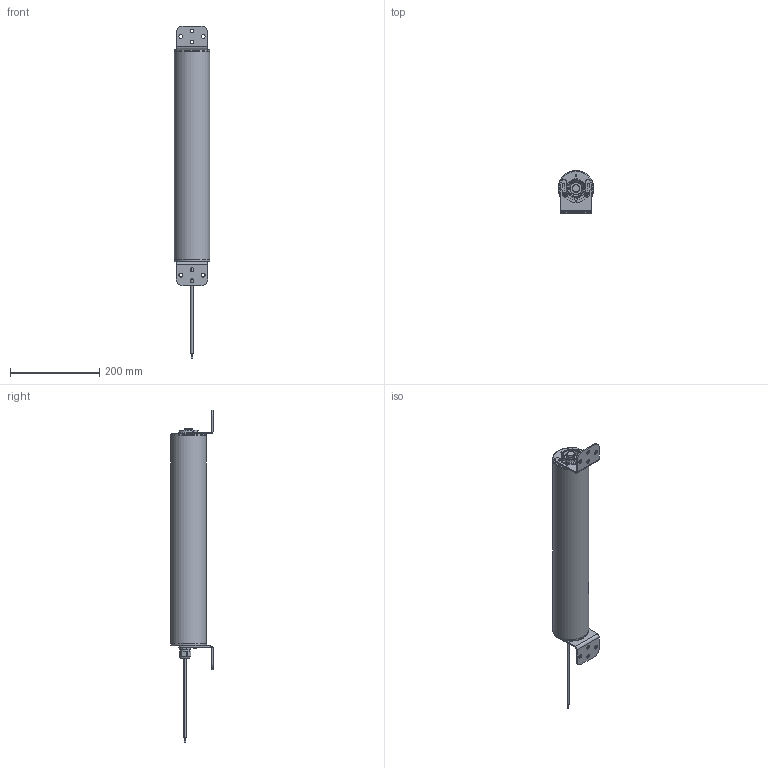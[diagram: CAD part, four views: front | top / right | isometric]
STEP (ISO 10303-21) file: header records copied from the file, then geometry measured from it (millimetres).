
FILE_DESCRIPTION (( 'STEP AP203' ), '1' );
FILE_NAME ('LB9x301.STEP', '2024-08-28T10:10:46', ( '' ), ( '' ), 'SwSTEP 2.0', 'SolidWorks 2021', '' );
FILE_SCHEMA (( 'CONFIG_CONTROL_DESIGN' ));
Length unit declared in the file: millimetre
Products named in the file (7): IP69K adjust model_375; Cable M12 femelle_1; 006266-C; IP69K enclosure adjust_375; 000039_M5x10_1; LB9x301; 000715_1
Assembly tree (10 placements, depth 2):
  LB9x301
    IP69K adjust model_375
    IP69K enclosure adjust_375
    000039_M5x10_1  x4
    000715_1
    Cable M12 femelle_1
    006266-C  x2
Bounding box: 80 x 95 x 743.8 mm (x, y, z)
Volume: 1393638.9 mm3; surface area: 402659.8 mm2
Topology: 12 solids, 12 shells, 1217 faces, 3218 edges, 2092 vertices
Faces by surface type: plane 665, cylinder 366, bspline 92, cone 64, torus 26, sphere 4
Entity records: 40225 total; most frequent: CARTESIAN_POINT 11808, ORIENTED_EDGE 5892, DIRECTION 5600, EDGE_CURVE 2946, VERTEX_POINT 1927, AXIS2_PLACEMENT_3D 1903, VECTOR 1794, LINE 1794
